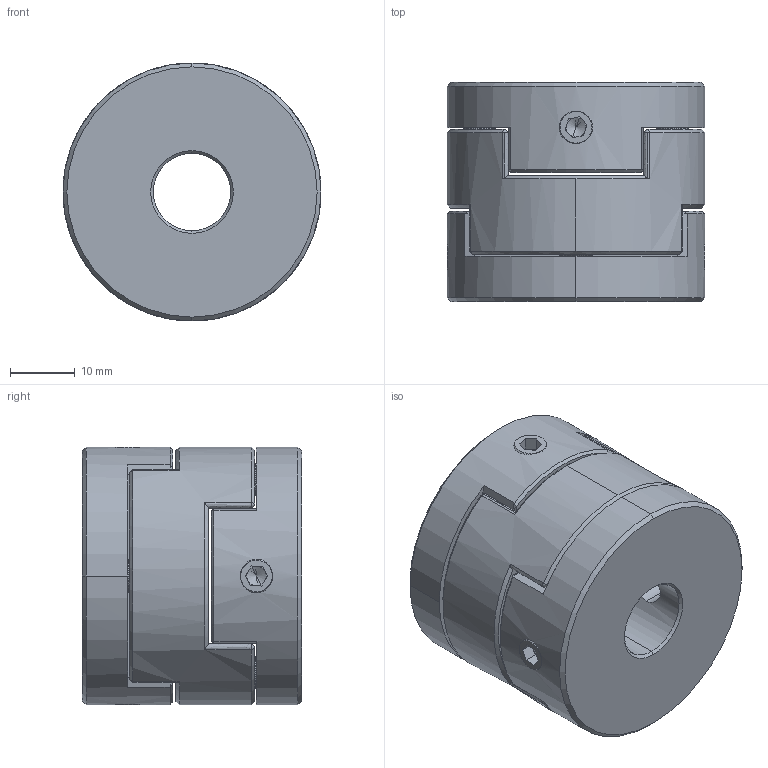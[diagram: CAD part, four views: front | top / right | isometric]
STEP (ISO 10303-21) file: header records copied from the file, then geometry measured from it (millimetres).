
FILE_DESCRIPTION (( 'STEP AP203' ), '1' );
FILE_NAME ('LZ-D-D40L35-12-12.STEP', '2021-10-30T05:19:07', ( '' ), ( '' ), 'SwSTEP 2.0', 'SolidWorks 2018', '' );
FILE_SCHEMA (( 'CONFIG_CONTROL_DESIGN' ));
Length unit declared in the file: millimetre
Products named in the file (1): LZ-D-D40L35-12-12
Bounding box: 40 x 34 x 40 mm (x, y, z)
Volume: 36149.7 mm3; surface area: 12498.8 mm2
Topology: 1 solids, 1 shells, 217 faces, 542 edges, 327 vertices
Faces by surface type: plane 88, bspline 55, cone 48, cylinder 26
Entity records: 7728 total; most frequent: CARTESIAN_POINT 3005, ORIENTED_EDGE 1068, DIRECTION 796, EDGE_CURVE 534, VERTEX_POINT 327, AXIS2_PLACEMENT_3D 289, EDGE_LOOP 243, LINE 218
